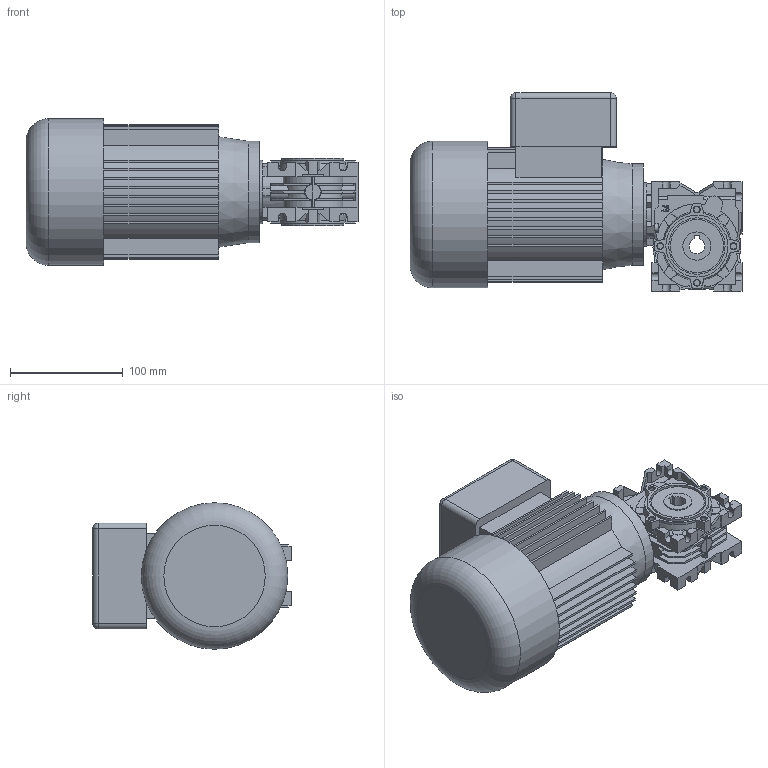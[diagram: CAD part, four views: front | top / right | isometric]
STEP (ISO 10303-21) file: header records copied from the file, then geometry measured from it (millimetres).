
FILE_DESCRIPTION( ( 'Unknown' ), '1' );
FILE_NAME( 'E:/services/configuratordownloads/customers/VARVEL/RT/download/423C717E243E69D3124E40A154F6E6/STEP/423C717E243E69D3124E40A154F6E6.3d.stp', 'Unknown', ( 'Unknown' ), ( 'Unknown' ), 'PSStep 10.1', 'Unknown', ' ' );
FILE_SCHEMA( ( 'AUTOMOTIVE_DESIGN { 1 0 10303 214 1 1 1 1 }' ) );
Length unit declared in the file: millimetre
Products named in the file (1): 530101
Bounding box: 294.5 x 176 x 130 mm (x, y, z)
Volume: 2776084.8 mm3; surface area: 252610.7 mm2
Topology: 1 solids, 2 shells, 843 faces, 2335 edges, 1544 vertices
Faces by surface type: plane 622, cylinder 185, cone 17, torus 9, bspline 4, sphere 4, revolution 2
Full cylindrical faces by diameter (mm): 4.2 x8, 6 x16, 11 x1, 15 x1, 16 x2, 25 x2, 30 x2, 32 x1, 37 x1, 45 x1, 47.1 x2, 50 x2, 55 x2, 56.5 x1, 59 x1, 60 x1, 90 x1, 130 x1
Entity records: 33353 total; most frequent: CARTESIAN_POINT 5325, ORIENTED_EDGE 4462, DIRECTION 4249, EDGE_CURVE 2231, LINE 1711, VECTOR 1711, VERTEX_POINT 1508, AXIS2_PLACEMENT_3D 1268
